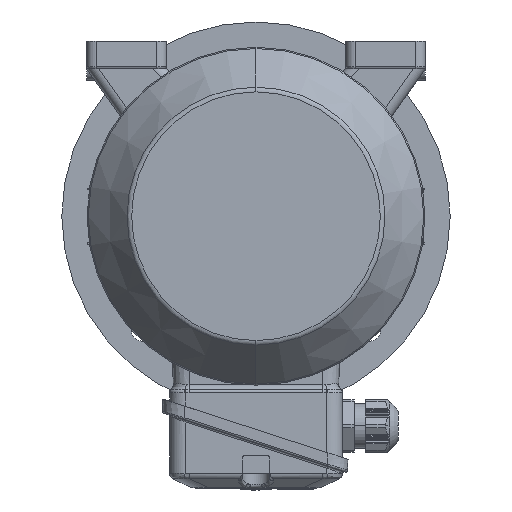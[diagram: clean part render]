
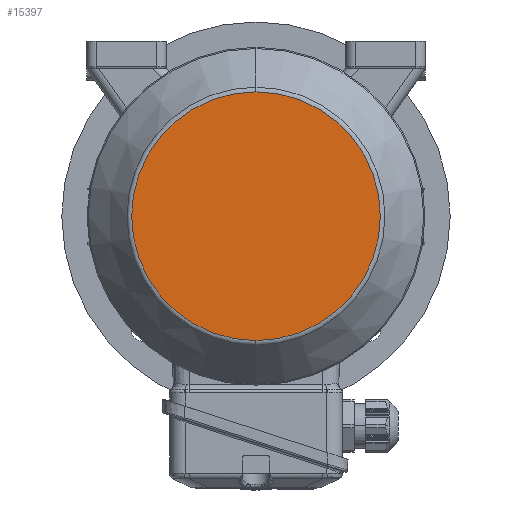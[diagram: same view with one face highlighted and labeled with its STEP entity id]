
A CAD part, left-side view. The second image highlights one B-rep face of the part: STEP entity #15397.
In plain terms, the highlighted planar face has unit normal (-1, 0, 0).
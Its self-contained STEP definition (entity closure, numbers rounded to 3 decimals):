
#4850 = CARTESIAN_POINT ( 'NONE',  ( -164., 0., 64.037 ) ) ;
#5768 = FACE_OUTER_BOUND ( 'NONE', #18405, .T. ) ;
#7725 = DIRECTION ( 'NONE',  ( 0., 0., -1. ) ) ;
#11760 = CIRCLE ( 'NONE', #39526, 64.037 ) ;
#11766 = DIRECTION ( 'NONE',  ( 1., 0., 0. ) ) ;
#12133 = VERTEX_POINT ( 'NONE', #50122 ) ;
#15397 = ADVANCED_FACE ( 'NONE', ( #5768 ), #16030, .T. ) ;
#15467 = VERTEX_POINT ( 'NONE', #4850 ) ;
#16030 = PLANE ( 'NONE',  #30631 ) ;
#16397 = DIRECTION ( 'NONE',  ( 1., 0., 0. ) ) ;
#18405 = EDGE_LOOP ( 'NONE', ( #33974, #35629 ) ) ;
#29317 = DIRECTION ( 'NONE',  ( 0., 0., -1. ) ) ;
#30631 = AXIS2_PLACEMENT_3D ( 'NONE', #36639, #50496, #42099 ) ;
#32753 = CIRCLE ( 'NONE', #41504, 64.037 ) ;
#33974 = ORIENTED_EDGE ( 'NONE', *, *, #41697, .F. ) ;
#35629 = ORIENTED_EDGE ( 'NONE', *, *, #43519, .F. ) ;
#36639 = CARTESIAN_POINT ( 'NONE',  ( -164., 0., -64.037 ) ) ;
#39526 = AXIS2_PLACEMENT_3D ( 'NONE', #52817, #11766, #7725 ) ;
#41504 = AXIS2_PLACEMENT_3D ( 'NONE', #53952, #16397, #29317 ) ;
#41697 = EDGE_CURVE ( 'NONE', #12133, #15467, #32753, .T. ) ;
#42099 = DIRECTION ( 'NONE',  ( 0., 1., 0. ) ) ;
#43519 = EDGE_CURVE ( 'NONE', #15467, #12133, #11760, .T. ) ;
#50122 = CARTESIAN_POINT ( 'NONE',  ( -164., 0., -64.037 ) ) ;
#50496 = DIRECTION ( 'NONE',  ( -1., 0., 0. ) ) ;
#52817 = CARTESIAN_POINT ( 'NONE',  ( -164., 0., 0. ) ) ;
#53952 = CARTESIAN_POINT ( 'NONE',  ( -164., 0., 0. ) ) ;
